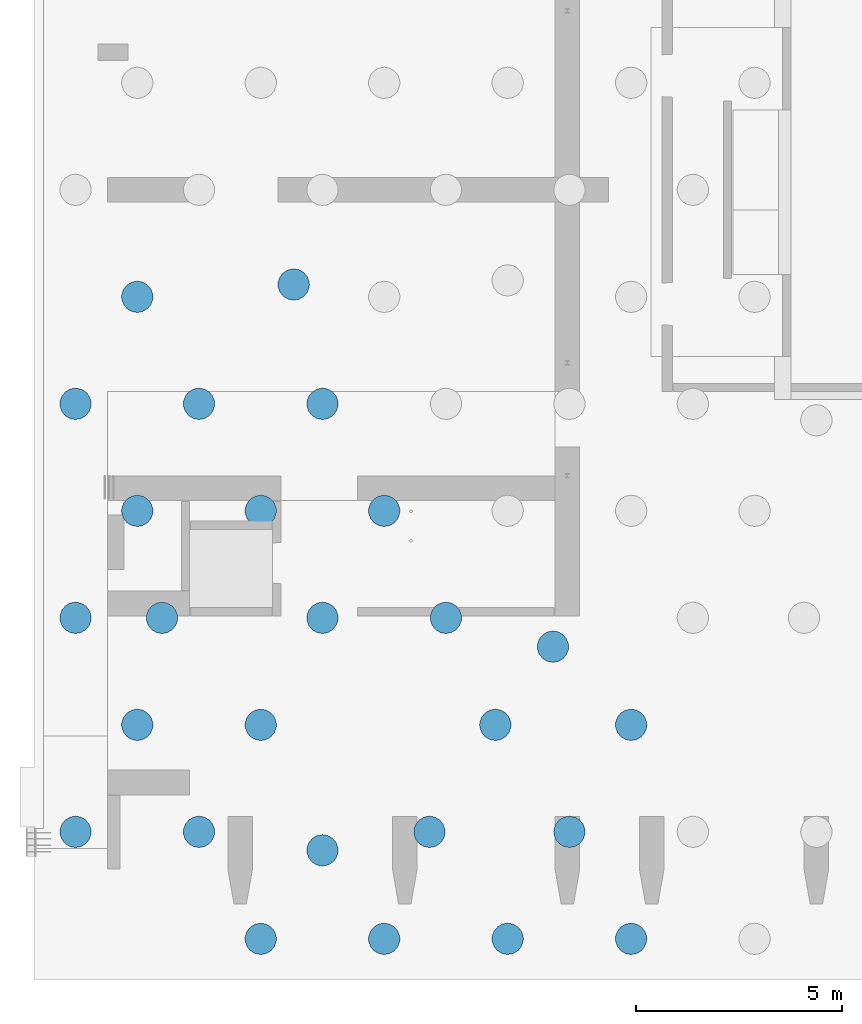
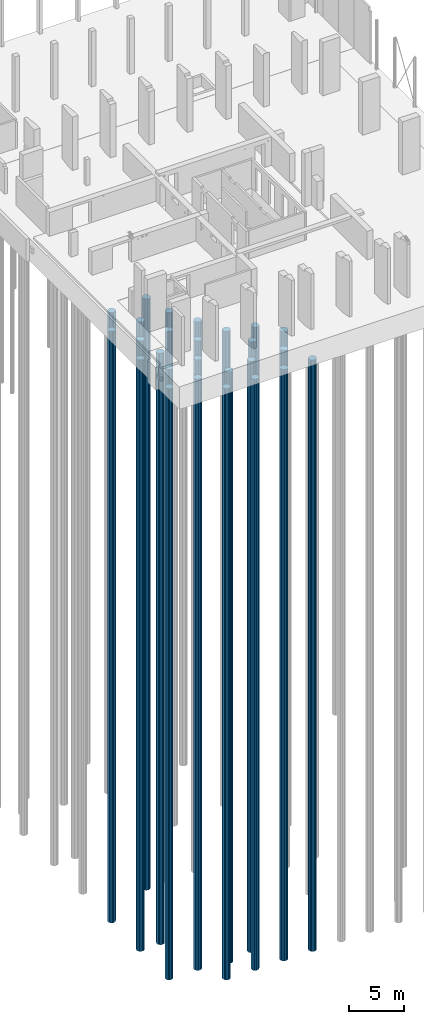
# One storey, part 1 of 26: 26 piles.
"""IFC2X3 building model written with IfcOpenShell, lengths in millimetres."""

from ifc_helpers import new_model, entity, si_unit, converted_unit, derived_unit, direction, frame, origin, place, context, subcontext, project, spatial, polyline, outline, extrude, material, element, save


model = new_model("IFC2X3")

# Units and contexts
model_context = context("Model", 3, precision=0.01, world=origin(), true_north=direction((6.12303176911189e-17, 1.0)))
body_context = subcontext(model_context, "Body", "Model", "MODEL_VIEW")
ifc_project = project(units=[si_unit("LENGTHUNIT", "METRE", prefix="MILLI"), si_unit("AREAUNIT", "SQUARE_METRE"), si_unit("VOLUMEUNIT", "CUBIC_METRE"), converted_unit("PLANEANGLEUNIT", "DEGREE", entity("IfcRatioMeasure", 0.0174532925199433), si_unit("PLANEANGLEUNIT", "RADIAN"), dimensions=[0, 0, 0, 0, 0, 0, 0]), si_unit("MASSUNIT", "GRAM", prefix="KILO"), derived_unit("MASSDENSITYUNIT", [(si_unit("MASSUNIT", "GRAM", prefix="KILO"), 1), (si_unit("LENGTHUNIT", "METRE"), -3)]), si_unit("TIMEUNIT", "SECOND"), si_unit("FREQUENCYUNIT", "HERTZ"), si_unit("THERMODYNAMICTEMPERATUREUNIT", "DEGREE_CELSIUS"), derived_unit("THERMALTRANSMITTANCEUNIT", [(si_unit("MASSUNIT", "GRAM", prefix="KILO"), 1), (si_unit("THERMODYNAMICTEMPERATUREUNIT", "KELVIN"), -1), (si_unit("TIMEUNIT", "SECOND"), -3)]), derived_unit("VOLUMETRICFLOWRATEUNIT", [(si_unit("LENGTHUNIT", "METRE"), 3), (si_unit("TIMEUNIT", "SECOND"), -1)]), si_unit("ELECTRICCURRENTUNIT", "AMPERE"), si_unit("ELECTRICVOLTAGEUNIT", "VOLT"), si_unit("POWERUNIT", "WATT"), si_unit("FORCEUNIT", "NEWTON", prefix="KILO"), si_unit("ILLUMINANCEUNIT", "LUX"), si_unit("LUMINOUSFLUXUNIT", "LUMEN"), si_unit("LUMINOUSINTENSITYUNIT", "CANDELA"), derived_unit("USERDEFINED", [(si_unit("MASSUNIT", "GRAM", prefix="KILO"), -1), (si_unit("LENGTHUNIT", "METRE"), -2), (si_unit("TIMEUNIT", "SECOND"), 3), (si_unit("LUMINOUSFLUXUNIT", "LUMEN"), 1)]), derived_unit("LINEARVELOCITYUNIT", [(si_unit("LENGTHUNIT", "METRE"), 1), (si_unit("TIMEUNIT", "SECOND"), -1)]), si_unit("PRESSUREUNIT", "PASCAL"), derived_unit("USERDEFINED", [(si_unit("LENGTHUNIT", "METRE"), -2), (si_unit("MASSUNIT", "GRAM", prefix="KILO"), 1), (si_unit("TIMEUNIT", "SECOND"), -2)])], contexts=[model_context])

# Site, building, storey
site_placement = place(None, origin())
site = spatial("IfcSite", under=ifc_project, at=site_placement, Name="Default", CompositionType="ELEMENT")
building_placement = place(site_placement, origin())
building = spatial("IfcBuilding", under=site, at=building_placement, Name="niet gebruiken", CompositionType="ELEMENT")
storey_placement = place(building_placement, origin())
storey = spatial("IfcBuildingStorey", under=building, at=storey_placement, Name="00 begane grond", CompositionType="ELEMENT", Elevation=0.0)

# Piles
ifc_material = material(Name="NLRS_f2_beton ihwg")
pile_1_placement = place(storey_placement, origin())
element("IfcPile", 1, at=pile_1_placement, inside=storey, material=ifc_material, Name="NLRS_17.12_SFO_TLB_funderingspaal grondverdringend_gen:Tubex_r762/950", ObjectType="NLRS_17.12_SFO_TLB_funderingspaal grondverdringend_gen:Tubex_r762/950", context=body_context, shape_type="SweptSolid", body=[
    extrude(outline(polyline([(-33.2063379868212, -379.55017997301), (33.2063379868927, -379.55017997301), (161.017557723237, -345.303266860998), (269.407683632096, -269.407683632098), (345.303266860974, -161.017557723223), (379.55017997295, -33.2063379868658), (368.017739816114, 98.6100561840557), (312.096928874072, 218.532622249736), (218.532622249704, 312.096928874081), (98.6100561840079, 368.017739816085), (33.2063379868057, 379.550179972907), (-33.2063379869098, 379.55017997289), (-161.017557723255, 345.303266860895), (-269.407683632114, 269.407683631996), (-345.303266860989, 161.01755772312), (-379.550179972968, 33.206337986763), (-368.017739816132, -98.6100561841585), (-312.09692887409, -218.532622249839), (-218.532622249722, -312.096928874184), (-98.6100561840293, -368.017739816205), (-33.2063379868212, -379.55017997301)])), frame((125250.0, 14900.0, -68100.0), z_axis=(0.0, 0.0, 1.0), x_axis=(0.0871557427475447, -0.996194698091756, 0.0)), (0.0, 0.0, 1.0), 65380.0),
])
pile_2_placement = place(storey_placement, origin())
element("IfcPile", 2, at=pile_2_placement, inside=storey, material=ifc_material, Name="NLRS_17.12_SFO_TLB_funderingspaal grondverdringend_gen:Tubex_r762/950", ObjectType="NLRS_17.12_SFO_TLB_funderingspaal grondverdringend_gen:Tubex_r762/950", context=body_context, shape_type="SweptSolid", body=[
    extrude(outline(polyline([(-33.2063379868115, -379.550179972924), (33.2063379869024, -379.550179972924), (161.017557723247, -345.303266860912), (269.407683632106, -269.407683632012), (345.303266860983, -161.017557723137), (379.55017997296, -33.2063379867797), (368.017739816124, 98.6100561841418), (312.096928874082, 218.532622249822), (218.532622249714, 312.096928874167), (98.6100561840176, 368.017739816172), (33.2063379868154, 379.550179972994), (-33.2063379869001, 379.550179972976), (-161.017557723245, 345.303266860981), (-269.407683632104, 269.407683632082), (-345.30326686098, 161.017557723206), (-379.550179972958, 33.2063379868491), (-368.017739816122, -98.6100561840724), (-312.09692887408, -218.532622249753), (-218.532622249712, -312.096928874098), (-98.6100561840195, -368.017739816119), (-33.2063379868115, -379.550179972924)])), frame((129050.0, 15200.0, -68100.0), z_axis=(0.0, 0.0, 1.0), x_axis=(0.0871557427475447, -0.996194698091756, 0.0)), (0.0, 0.0, 1.0), 65380.0),
])
pile_3_placement = place(storey_placement, origin())
element("IfcPile", 3, at=pile_3_placement, inside=storey, material=ifc_material, Name="NLRS_17.12_SFO_TLB_funderingspaal grondverdringend_gen:Tubex_r762/950", ObjectType="NLRS_17.12_SFO_TLB_funderingspaal grondverdringend_gen:Tubex_r762/950", context=body_context, shape_type="SweptSolid", body=[
    extrude(outline(polyline([(-33.2063379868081, -379.550179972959), (33.2063379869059, -379.550179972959), (161.01755772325, -345.303266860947), (269.407683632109, -269.407683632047), (345.303266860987, -161.017557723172), (379.550179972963, -33.2063379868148), (368.017739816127, 98.6100561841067), (312.096928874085, 218.532622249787), (218.532622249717, 312.096928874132), (98.610056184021, 368.017739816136), (33.2063379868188, 379.550179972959), (-33.2063379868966, 379.550179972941), (-161.017557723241, 345.303266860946), (-269.4076836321, 269.407683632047), (-345.303266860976, 161.017557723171), (-379.550179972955, 33.206337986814), (-368.017739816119, -98.6100561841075), (-312.096928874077, -218.532622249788), (-218.532622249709, -312.096928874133), (-98.6100561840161, -368.017739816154), (-33.2063379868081, -379.550179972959)])), frame((129750.0, 12300.0, -68100.0), z_axis=(0.0, 0.0, 1.0), x_axis=(0.0871557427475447, -0.996194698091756, 0.0)), (0.0, 0.0, 1.0), 65380.0),
])
pile_4_placement = place(storey_placement, origin())
element("IfcPile", 4, at=pile_4_placement, inside=storey, material=ifc_material, Name="NLRS_17.12_SFO_TLB_funderingspaal grondverdringend_gen:Tubex_r762/950", ObjectType="NLRS_17.12_SFO_TLB_funderingspaal grondverdringend_gen:Tubex_r762/950", context=body_context, shape_type="SweptSolid", body=[
    extrude(outline(polyline([(-33.2063379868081, -379.550179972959), (33.2063379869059, -379.550179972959), (161.01755772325, -345.303266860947), (269.407683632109, -269.407683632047), (345.303266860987, -161.017557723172), (379.550179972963, -33.2063379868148), (368.017739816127, 98.6100561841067), (312.096928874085, 218.532622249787), (218.532622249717, 312.096928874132), (98.610056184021, 368.017739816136), (33.2063379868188, 379.550179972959), (-33.2063379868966, 379.550179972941), (-161.017557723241, 345.303266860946), (-269.4076836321, 269.407683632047), (-345.303266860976, 161.017557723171), (-379.550179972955, 33.206337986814), (-368.017739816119, -98.6100561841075), (-312.096928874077, -218.532622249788), (-218.532622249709, -312.096928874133), (-98.6100561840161, -368.017739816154), (-33.2063379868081, -379.550179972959)])), frame((126750.0, 12300.0, -68100.0), z_axis=(0.0, 0.0, 1.0), x_axis=(0.0871557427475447, -0.996194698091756, 0.0)), (0.0, 0.0, 1.0), 65380.0),
])
pile_5_placement = place(storey_placement, origin())
element("IfcPile", 5, at=pile_5_placement, inside=storey, material=ifc_material, Name="NLRS_17.12_SFO_TLB_funderingspaal grondverdringend_gen:Tubex_r762/950", ObjectType="NLRS_17.12_SFO_TLB_funderingspaal grondverdringend_gen:Tubex_r762/950", context=body_context, shape_type="SweptSolid", body=[
    extrude(outline(polyline([(-33.2063379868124, -379.550179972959), (33.2063379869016, -379.550179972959), (161.017557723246, -345.303266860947), (269.407683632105, -269.407683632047), (345.303266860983, -161.017557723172), (379.550179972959, -33.2063379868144), (368.017739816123, 98.6100561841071), (312.096928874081, 218.532622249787), (218.532622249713, 312.096928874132), (98.6100561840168, 368.017739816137), (33.2063379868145, 379.550179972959), (-33.2063379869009, 379.550179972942), (-161.017557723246, 345.303266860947), (-269.407683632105, 269.407683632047), (-345.30326686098, 161.017557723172), (-379.550179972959, 33.2063379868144), (-368.017739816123, -98.6100561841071), (-312.096928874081, -218.532622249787), (-218.532622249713, -312.096928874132), (-98.6100561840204, -368.017739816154), (-33.2063379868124, -379.550179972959)])), frame((123750.0, 12300.0, -68100.0), z_axis=(0.0, 0.0, 1.0), x_axis=(0.0871557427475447, -0.996194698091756, 0.0)), (0.0, 0.0, 1.0), 65380.0),
])
pile_6_placement = place(storey_placement, origin())
element("IfcPile", 6, at=pile_6_placement, inside=storey, material=ifc_material, Name="NLRS_17.12_SFO_TLB_funderingspaal grondverdringend_gen:Tubex_r762/950", ObjectType="NLRS_17.12_SFO_TLB_funderingspaal grondverdringend_gen:Tubex_r762/950", context=body_context, shape_type="SweptSolid", body=[
    extrude(outline(polyline([(-33.2063379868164, -379.550179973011), (33.2063379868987, -379.550179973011), (161.017557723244, -345.303266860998), (269.407683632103, -269.407683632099), (345.303266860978, -161.017557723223), (379.550179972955, -33.2063379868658), (368.017739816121, 98.6100561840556), (312.096928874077, 218.532622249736), (218.532622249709, 312.096928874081), (98.6100561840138, 368.017739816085), (33.2063379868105, 379.550179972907), (-33.2063379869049, 379.55017997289), (-161.01755772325, 345.303266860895), (-269.407683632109, 269.407683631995), (-345.303266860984, 161.017557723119), (-379.550179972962, 33.2063379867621), (-368.017739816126, -98.6100561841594), (-312.096928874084, -218.53262224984), (-218.532622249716, -312.096928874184), (-98.6100561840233, -368.017739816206), (-33.2063379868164, -379.550179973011)])), frame((125250.0, 9700.0, -68100.0), z_axis=(0.0, 0.0, 1.0), x_axis=(0.0871557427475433, -0.996194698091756, 0.0)), (0.0, 0.0, 1.0), 65380.0),
])
pile_7_placement = place(storey_placement, origin())
element("IfcPile", 7, at=pile_7_placement, inside=storey, material=ifc_material, Name="NLRS_17.12_SFO_TLB_funderingspaal grondverdringend_gen:Tubex_r762/950", ObjectType="NLRS_17.12_SFO_TLB_funderingspaal grondverdringend_gen:Tubex_r762/950", context=body_context, shape_type="SweptSolid", body=[
    extrude(outline(polyline([(-33.2063379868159, -379.550179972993), (33.2063379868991, -379.550179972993), (161.017557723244, -345.303266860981), (269.407683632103, -269.407683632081), (345.303266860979, -161.017557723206), (379.550179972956, -33.2063379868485), (368.017739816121, 98.6100561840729), (312.096928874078, 218.532622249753), (218.53262224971, 312.096928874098), (98.6100561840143, 368.017739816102), (33.206337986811, 379.550179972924), (-33.2063379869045, 379.550179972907), (-161.017557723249, 345.303266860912), (-269.407683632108, 269.407683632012), (-345.303266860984, 161.017557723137), (-379.550179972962, 33.2063379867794), (-368.017739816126, -98.6100561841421), (-312.096928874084, -218.532622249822), (-218.532622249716, -312.096928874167), (-98.6100561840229, -368.017739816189), (-33.2063379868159, -379.550179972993)])), frame((131250.0, 9700.0, -68100.0), z_axis=(0.0, 0.0, 1.0), x_axis=(0.0871557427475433, -0.996194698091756, 0.0)), (0.0, 0.0, 1.0), 65380.0),
])
pile_8_placement = place(storey_placement, origin())
element("IfcPile", 8, at=pile_8_placement, inside=storey, material=ifc_material, Name="NLRS_17.12_SFO_TLB_funderingspaal grondverdringend_gen:Tubex_r762/950", ObjectType="NLRS_17.12_SFO_TLB_funderingspaal grondverdringend_gen:Tubex_r762/950", context=body_context, shape_type="SweptSolid", body=[
    extrude(outline(polyline([(-33.2063379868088, -379.550179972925), (33.2063379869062, -379.550179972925), (161.017557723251, -345.303266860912), (269.40768363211, -269.407683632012), (345.303266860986, -161.017557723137), (379.550179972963, -33.2063379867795), (368.017739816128, 98.6100561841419), (312.096928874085, 218.532622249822), (218.532622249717, 312.096928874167), (98.6100561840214, 368.017739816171), (33.2063379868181, 379.550179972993), (-33.2063379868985, 379.550179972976), (-161.017557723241, 345.303266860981), (-269.4076836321, 269.407683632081), (-345.303266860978, 161.017557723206), (-379.550179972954, 33.2063379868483), (-368.01773981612, -98.610056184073), (-312.096928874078, -218.532622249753), (-218.53262224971, -312.096928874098), (-98.6100561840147, -368.01773981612), (-33.2063379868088, -379.550179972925)])), frame((128250.0, 9700.0, -68100.0), z_axis=(0.0, 0.0, 1.0), x_axis=(0.0871557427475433, -0.996194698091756, 0.0)), (0.0, 0.0, 1.0), 65380.0),
])
pile_9_placement = place(storey_placement, origin())
element("IfcPile", 9, at=pile_9_placement, inside=storey, material=ifc_material, Name="NLRS_17.12_SFO_TLB_funderingspaal grondverdringend_gen:Tubex_r762/950", ObjectType="NLRS_17.12_SFO_TLB_funderingspaal grondverdringend_gen:Tubex_r762/950", context=body_context, shape_type="SweptSolid", body=[
    extrude(outline(polyline([(-33.2063379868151, -379.550179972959), (33.2063379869, -379.550179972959), (161.017557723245, -345.303266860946), (269.407683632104, -269.407683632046), (345.30326686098, -161.017557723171), (379.550179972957, -33.2063379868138), (368.017739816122, 98.6100561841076), (312.096928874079, 218.532622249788), (218.532622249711, 312.096928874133), (98.6100561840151, 368.017739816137), (33.2063379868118, 379.550179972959), (-33.2063379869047, 379.550179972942), (-161.017557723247, 345.303266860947), (-269.407683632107, 269.407683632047), (-345.303266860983, 161.017557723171), (-379.55017997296, 33.206337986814), (-368.017739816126, -98.6100561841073), (-312.096928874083, -218.532622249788), (-218.532622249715, -312.096928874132), (-98.610056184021, -368.017739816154), (-33.2063379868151, -379.550179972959)])), frame((135350.0, 6400.0, -68100.0), z_axis=(0.0, 0.0, 1.0), x_axis=(0.0871557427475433, -0.996194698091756, 0.0)), (0.0, 0.0, 1.0), 65380.0),
])
pile_10_placement = place(storey_placement, origin())
element("IfcPile", 10, at=pile_10_placement, inside=storey, material=ifc_material, Name="NLRS_17.12_SFO_TLB_funderingspaal grondverdringend_gen:Tubex_r762/950", ObjectType="NLRS_17.12_SFO_TLB_funderingspaal grondverdringend_gen:Tubex_r762/950", context=body_context, shape_type="SweptSolid", body=[
    extrude(outline(polyline([(-33.2063379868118, -379.550179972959), (33.2063379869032, -379.550179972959), (161.017557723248, -345.303266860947), (269.407683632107, -269.407683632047), (345.303266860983, -161.017557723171), (379.55017997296, -33.206337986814), (368.017739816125, 98.6100561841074), (312.096928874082, 218.532622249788), (218.532622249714, 312.096928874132), (98.6100561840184, 368.017739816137), (33.2063379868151, 379.550179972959), (-33.2063379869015, 379.550179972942), (-161.017557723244, 345.303266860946), (-269.407683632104, 269.407683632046), (-345.30326686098, 161.017557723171), (-379.550179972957, 33.2063379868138), (-368.017739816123, -98.6100561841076), (-312.09692887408, -218.532622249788), (-218.532622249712, -312.096928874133), (-98.6100561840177, -368.017739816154), (-33.2063379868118, -379.550179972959)])), frame((132750.0, 7100.0, -68100.0), z_axis=(0.0, 0.0, 1.0), x_axis=(0.0871557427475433, -0.996194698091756, 0.0)), (0.0, 0.0, 1.0), 65380.0),
])
pile_11_placement = place(storey_placement, origin())
element("IfcPile", 11, at=pile_11_placement, inside=storey, material=ifc_material, Name="NLRS_17.12_SFO_TLB_funderingspaal grondverdringend_gen:Tubex_r762/950", ObjectType="NLRS_17.12_SFO_TLB_funderingspaal grondverdringend_gen:Tubex_r762/950", context=body_context, shape_type="SweptSolid", body=[
    extrude(outline(polyline([(-33.2063379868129, -379.550179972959), (33.2063379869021, -379.550179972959), (161.017557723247, -345.303266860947), (269.407683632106, -269.407683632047), (345.303266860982, -161.017557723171), (379.550179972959, -33.2063379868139), (368.017739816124, 98.6100561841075), (312.096928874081, 218.532622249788), (218.532622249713, 312.096928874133), (98.6100561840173, 368.017739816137), (33.206337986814, 379.550179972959), (-33.2063379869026, 379.550179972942), (-161.017557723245, 345.303266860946), (-269.407683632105, 269.407683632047), (-345.303266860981, 161.017557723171), (-379.550179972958, 33.2063379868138), (-368.017739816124, -98.6100561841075), (-312.096928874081, -218.532622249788), (-218.532622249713, -312.096928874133), (-98.6100561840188, -368.017739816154), (-33.2063379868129, -379.550179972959)])), frame((129750.0, 7100.0, -68100.0), z_axis=(0.0, 0.0, 1.0), x_axis=(0.0871557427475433, -0.996194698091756, 0.0)), (0.0, 0.0, 1.0), 65380.0),
])
pile_12_placement = place(storey_placement, origin())
element("IfcPile", 12, at=pile_12_placement, inside=storey, material=ifc_material, Name="NLRS_17.12_SFO_TLB_funderingspaal grondverdringend_gen:Tubex_r762/950", ObjectType="NLRS_17.12_SFO_TLB_funderingspaal grondverdringend_gen:Tubex_r762/950", context=body_context, shape_type="SweptSolid", body=[
    extrude(outline(polyline([(-33.2063379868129, -379.550179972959), (33.2063379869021, -379.550179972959), (161.017557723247, -345.303266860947), (269.407683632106, -269.407683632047), (345.303266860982, -161.017557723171), (379.550179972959, -33.2063379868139), (368.017739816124, 98.6100561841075), (312.096928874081, 218.532622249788), (218.532622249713, 312.096928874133), (98.6100561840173, 368.017739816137), (33.206337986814, 379.550179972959), (-33.2063379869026, 379.550179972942), (-161.017557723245, 345.303266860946), (-269.407683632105, 269.407683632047), (-345.303266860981, 161.017557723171), (-379.550179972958, 33.2063379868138), (-368.017739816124, -98.6100561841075), (-312.096928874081, -218.532622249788), (-218.532622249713, -312.096928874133), (-98.6100561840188, -368.017739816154), (-33.2063379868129, -379.550179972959)])), frame((125850.0, 7100.0, -68100.0), z_axis=(0.0, 0.0, 1.0), x_axis=(0.0871557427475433, -0.996194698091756, 0.0)), (0.0, 0.0, 1.0), 65380.0),
])
pile_13_placement = place(storey_placement, origin())
element("IfcPile", 13, at=pile_13_placement, inside=storey, material=ifc_material, Name="NLRS_17.12_SFO_TLB_funderingspaal grondverdringend_gen:Tubex_r762/950", ObjectType="NLRS_17.12_SFO_TLB_funderingspaal grondverdringend_gen:Tubex_r762/950", context=body_context, shape_type="SweptSolid", body=[
    extrude(outline(polyline([(-33.2063379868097, -379.550179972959), (33.2063379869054, -379.550179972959), (161.017557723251, -345.303266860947), (269.407683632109, -269.407683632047), (345.303266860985, -161.017557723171), (379.550179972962, -33.2063379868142), (368.017739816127, 98.6100561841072), (312.096928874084, 218.532622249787), (218.532622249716, 312.096928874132), (98.6100561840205, 368.017739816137), (33.2063379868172, 379.550179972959), (-33.2063379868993, 379.550179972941), (-161.017557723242, 345.303266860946), (-269.407683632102, 269.407683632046), (-345.303266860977, 161.017557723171), (-379.550179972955, 33.2063379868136), (-368.017739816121, -98.6100561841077), (-312.096928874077, -218.532622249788), (-218.532622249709, -312.096928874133), (-98.6100561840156, -368.017739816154), (-33.2063379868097, -379.550179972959)])), frame((123750.0, 7100.0, -68100.0), z_axis=(0.0, 0.0, 1.0), x_axis=(0.0871557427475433, -0.996194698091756, 0.0)), (0.0, 0.0, 1.0), 65380.0),
])
pile_14_placement = place(storey_placement, origin())
element("IfcPile", 14, at=pile_14_placement, inside=storey, material=ifc_material, Name="NLRS_17.12_SFO_TLB_funderingspaal grondverdringend_gen:Tubex_r762/950", ObjectType="NLRS_17.12_SFO_TLB_funderingspaal grondverdringend_gen:Tubex_r762/950", context=body_context, shape_type="SweptSolid", body=[
    extrude(outline(polyline([(-33.2063379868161, -379.550179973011), (33.2063379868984, -379.550179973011), (161.017557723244, -345.303266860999), (269.407683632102, -269.407683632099), (345.303266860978, -161.017557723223), (379.550179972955, -33.2063379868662), (368.01773981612, 98.6100561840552), (312.096928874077, 218.532622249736), (218.532622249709, 312.096928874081), (98.6100561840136, 368.017739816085), (33.2063379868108, 379.550179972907), (-33.2063379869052, 379.55017997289), (-161.017557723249, 345.303266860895), (-269.407683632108, 269.407683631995), (-345.303266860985, 161.01755772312), (-379.550179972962, 33.2063379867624), (-368.017739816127, -98.610056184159), (-312.096928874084, -218.532622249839), (-218.532622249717, -312.096928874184), (-98.6100561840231, -368.017739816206), (-33.2063379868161, -379.550179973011)])), frame((125250.0, 4500.0, -68100.0), z_axis=(0.0, 0.0, 1.0), x_axis=(0.087155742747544, -0.996194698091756, 0.0)), (0.0, 0.0, 1.0), 65380.0),
])
pile_15_placement = place(storey_placement, origin())
element("IfcPile", 15, at=pile_15_placement, inside=storey, material=ifc_material, Name="NLRS_17.12_SFO_TLB_funderingspaal grondverdringend_gen:Tubex_r762/950", ObjectType="NLRS_17.12_SFO_TLB_funderingspaal grondverdringend_gen:Tubex_r762/950", context=body_context, shape_type="SweptSolid", body=[
    extrude(outline(polyline([(-33.2063379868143, -379.550179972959), (33.2063379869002, -379.550179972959), (161.017557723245, -345.303266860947), (269.407683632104, -269.407683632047), (345.30326686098, -161.017557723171), (379.550179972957, -33.2063379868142), (368.017739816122, 98.6100561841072), (312.096928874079, 218.532622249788), (218.532622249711, 312.096928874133), (98.6100561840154, 368.017739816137), (33.2063379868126, 379.550179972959), (-33.2063379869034, 379.550179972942), (-161.017557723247, 345.303266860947), (-269.407683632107, 269.407683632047), (-345.303266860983, 161.017557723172), (-379.55017997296, 33.2063379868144), (-368.017739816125, -98.610056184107), (-312.096928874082, -218.532622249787), (-218.532622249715, -312.096928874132), (-98.6100561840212, -368.017739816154), (-33.2063379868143, -379.550179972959)])), frame((128250.0, 4500.0, -68100.0), z_axis=(0.0, 0.0, 1.0), x_axis=(0.087155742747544, -0.996194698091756, 0.0)), (0.0, 0.0, 1.0), 65380.0),
])
pile_16_placement = place(storey_placement, origin())
element("IfcPile", 16, at=pile_16_placement, inside=storey, material=ifc_material, Name="NLRS_17.12_SFO_TLB_funderingspaal grondverdringend_gen:Tubex_r762/950", ObjectType="NLRS_17.12_SFO_TLB_funderingspaal grondverdringend_gen:Tubex_r762/950", context=body_context, shape_type="SweptSolid", body=[
    extrude(outline(polyline([(-33.2063379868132, -379.550179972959), (33.2063379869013, -379.550179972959), (161.017557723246, -345.303266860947), (269.407683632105, -269.407683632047), (345.303266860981, -161.017557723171), (379.550179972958, -33.2063379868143), (368.017739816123, 98.6100561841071), (312.09692887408, 218.532622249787), (218.532622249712, 312.096928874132), (98.6100561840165, 368.017739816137), (33.2063379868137, 379.550179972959), (-33.2063379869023, 379.550179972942), (-161.017557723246, 345.303266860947), (-269.407683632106, 269.407683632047), (-345.303266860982, 161.017557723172), (-379.550179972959, 33.2063379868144), (-368.017739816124, -98.6100561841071), (-312.096928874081, -218.532622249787), (-218.532622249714, -312.096928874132), (-98.6100561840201, -368.017739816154), (-33.2063379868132, -379.550179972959)])), frame((133950.0, 4500.0, -68100.0), z_axis=(0.0, 0.0, 1.0), x_axis=(0.087155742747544, -0.996194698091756, 0.0)), (0.0, 0.0, 1.0), 65380.0),
])
pile_17_placement = place(storey_placement, origin())
element("IfcPile", 17, at=pile_17_placement, inside=storey, material=ifc_material, Name="NLRS_17.12_SFO_TLB_funderingspaal grondverdringend_gen:Tubex_r762/950", ObjectType="NLRS_17.12_SFO_TLB_funderingspaal grondverdringend_gen:Tubex_r762/950", context=body_context, shape_type="SweptSolid", body=[
    extrude(outline(polyline([(-33.2063379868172, -379.550179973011), (33.2063379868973, -379.550179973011), (161.017557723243, -345.303266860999), (269.407683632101, -269.407683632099), (345.303266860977, -161.017557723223), (379.550179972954, -33.2063379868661), (368.017739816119, 98.6100561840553), (312.096928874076, 218.532622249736), (218.532622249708, 312.096928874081), (98.6100561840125, 368.017739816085), (33.2063379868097, 379.550179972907), (-33.2063379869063, 379.55017997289), (-161.01755772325, 345.303266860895), (-269.40768363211, 269.407683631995), (-345.303266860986, 161.01755772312), (-379.550179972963, 33.2063379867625), (-368.017739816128, -98.6100561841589), (-312.096928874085, -218.532622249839), (-218.532622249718, -312.096928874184), (-98.6100561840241, -368.017739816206), (-33.2063379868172, -379.550179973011)])), frame((137250.0, 4500.0, -68100.0), z_axis=(0.0, 0.0, 1.0), x_axis=(0.087155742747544, -0.996194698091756, 0.0)), (0.0, 0.0, 1.0), 65380.0),
])
pile_18_placement = place(storey_placement, origin())
element("IfcPile", 18, at=pile_18_placement, inside=storey, material=ifc_material, Name="NLRS_17.12_SFO_TLB_funderingspaal grondverdringend_gen:Tubex_r762/950", ObjectType="NLRS_17.12_SFO_TLB_funderingspaal grondverdringend_gen:Tubex_r762/950", context=body_context, shape_type="SweptSolid", body=[
    extrude(outline(polyline([(-33.2063379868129, -379.550179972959), (33.2063379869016, -379.550179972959), (161.017557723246, -345.303266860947), (269.407683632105, -269.407683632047), (345.303266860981, -161.017557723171), (379.550179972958, -33.2063379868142), (368.017739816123, 98.6100561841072), (312.09692887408, 218.532622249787), (218.532622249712, 312.096928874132), (98.610056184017, 368.017739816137), (33.206337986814, 379.550179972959), (-33.206337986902, 379.550179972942), (-161.017557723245, 345.303266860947), (-269.407683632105, 269.407683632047), (-345.303266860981, 161.017557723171), (-379.550179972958, 33.2063379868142), (-368.017739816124, -98.6100561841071), (-312.096928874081, -218.532622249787), (-218.532622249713, -312.096928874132), (-98.6100561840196, -368.017739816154), (-33.2063379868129, -379.550179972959)])), frame((129750.0, 1450.0, -68100.0), z_axis=(0.0, 0.0, 1.0), x_axis=(0.087155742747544, -0.996194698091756, 0.0)), (0.0, 0.0, 1.0), 65380.0),
])
pile_19_placement = place(storey_placement, origin())
element("IfcPile", 19, at=pile_19_placement, inside=storey, material=ifc_material, Name="NLRS_17.12_SFO_TLB_funderingspaal grondverdringend_gen:Tubex_r762/950", ObjectType="NLRS_17.12_SFO_TLB_funderingspaal grondverdringend_gen:Tubex_r762/950", context=body_context, shape_type="SweptSolid", body=[
    extrude(outline(polyline([(-33.2063379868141, -379.550179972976), (33.2063379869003, -379.550179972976), (161.017557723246, -345.303266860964), (269.407683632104, -269.407683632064), (345.30326686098, -161.017557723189), (379.550179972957, -33.2063379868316), (368.017739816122, 98.6100561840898), (312.096928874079, 218.53262224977), (218.532622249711, 312.096928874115), (98.6100561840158, 368.017739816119), (33.2063379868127, 379.550179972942), (-33.2063379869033, 379.550179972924), (-161.017557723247, 345.303266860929), (-269.407683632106, 269.40768363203), (-345.303266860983, 161.017557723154), (-379.55017997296, 33.206337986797), (-368.017739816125, -98.6100561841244), (-312.096928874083, -218.532622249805), (-218.532622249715, -312.09692887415), (-98.6100561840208, -368.017739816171), (-33.2063379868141, -379.550179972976)])), frame((135750.0, 1900.0, -68100.0), z_axis=(0.0, 0.0, 1.0), x_axis=(0.087155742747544, -0.996194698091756, 0.0)), (0.0, 0.0, 1.0), 65380.0),
])
pile_20_placement = place(storey_placement, origin())
element("IfcPile", 20, at=pile_20_placement, inside=storey, material=ifc_material, Name="NLRS_17.12_SFO_TLB_funderingspaal grondverdringend_gen:Tubex_r762/950", ObjectType="NLRS_17.12_SFO_TLB_funderingspaal grondverdringend_gen:Tubex_r762/950", context=body_context, shape_type="SweptSolid", body=[
    extrude(outline(polyline([(-33.2063379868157, -379.550179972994), (33.2063379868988, -379.550179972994), (161.017557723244, -345.303266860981), (269.407683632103, -269.407683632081), (345.303266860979, -161.017557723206), (379.550179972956, -33.2063379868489), (368.017739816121, 98.6100561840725), (312.096928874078, 218.532622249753), (218.532622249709, 312.096928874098), (98.6100561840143, 368.017739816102), (33.2063379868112, 379.550179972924), (-33.2063379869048, 379.550179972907), (-161.017557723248, 345.303266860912), (-269.407683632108, 269.407683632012), (-345.303266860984, 161.017557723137), (-379.550179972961, 33.2063379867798), (-368.017739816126, -98.6100561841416), (-312.096928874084, -218.532622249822), (-218.532622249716, -312.096928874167), (-98.6100561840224, -368.017739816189), (-33.2063379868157, -379.550179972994)])), frame((132350.0, 1900.0, -68100.0), z_axis=(0.0, 0.0, 1.0), x_axis=(0.087155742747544, -0.996194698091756, 0.0)), (0.0, 0.0, 1.0), 65380.0),
])
pile_21_placement = place(storey_placement, origin())
element("IfcPile", 21, at=pile_21_placement, inside=storey, material=ifc_material, Name="NLRS_17.12_SFO_TLB_funderingspaal grondverdringend_gen:Tubex_r762/950", ObjectType="NLRS_17.12_SFO_TLB_funderingspaal grondverdringend_gen:Tubex_r762/950", context=body_context, shape_type="SweptSolid", body=[
    extrude(outline(polyline([(-33.2063379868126, -379.550179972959), (33.2063379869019, -379.550179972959), (161.017557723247, -345.303266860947), (269.407683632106, -269.407683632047), (345.303266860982, -161.017557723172), (379.550179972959, -33.2063379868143), (368.017739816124, 98.6100561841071), (312.096928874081, 218.532622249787), (218.532622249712, 312.096928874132), (98.6100561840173, 368.017739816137), (33.2063379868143, 379.550179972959), (-33.2063379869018, 379.550179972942), (-161.017557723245, 345.303266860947), (-269.407683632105, 269.407683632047), (-345.303266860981, 161.017557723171), (-379.550179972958, 33.2063379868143), (-368.017739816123, -98.6100561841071), (-312.096928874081, -218.532622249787), (-218.532622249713, -312.096928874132), (-98.6100561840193, -368.017739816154), (-33.2063379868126, -379.550179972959)])), frame((126750.0, 1900.0, -68100.0), z_axis=(0.0, 0.0, 1.0), x_axis=(0.087155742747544, -0.996194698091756, 0.0)), (0.0, 0.0, 1.0), 65380.0),
])
pile_22_placement = place(storey_placement, origin())
element("IfcPile", 22, at=pile_22_placement, inside=storey, material=ifc_material, Name="NLRS_17.12_SFO_TLB_funderingspaal grondverdringend_gen:Tubex_r762/950", ObjectType="NLRS_17.12_SFO_TLB_funderingspaal grondverdringend_gen:Tubex_r762/950", context=body_context, shape_type="SweptSolid", body=[
    extrude(outline(polyline([(-33.2063379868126, -379.550179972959), (33.2063379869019, -379.550179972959), (161.017557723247, -345.303266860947), (269.407683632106, -269.407683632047), (345.303266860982, -161.017557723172), (379.550179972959, -33.2063379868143), (368.017739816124, 98.6100561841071), (312.096928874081, 218.532622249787), (218.532622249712, 312.096928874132), (98.6100561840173, 368.017739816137), (33.2063379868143, 379.550179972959), (-33.2063379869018, 379.550179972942), (-161.017557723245, 345.303266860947), (-269.407683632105, 269.407683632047), (-345.303266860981, 161.017557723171), (-379.550179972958, 33.2063379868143), (-368.017739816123, -98.6100561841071), (-312.096928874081, -218.532622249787), (-218.532622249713, -312.096928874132), (-98.6100561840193, -368.017739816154), (-33.2063379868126, -379.550179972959)])), frame((123750.0, 1900.0, -68100.0), z_axis=(0.0, 0.0, 1.0), x_axis=(0.087155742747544, -0.996194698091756, 0.0)), (0.0, 0.0, 1.0), 65380.0),
])
pile_23_placement = place(storey_placement, origin())
element("IfcPile", 23, at=pile_23_placement, inside=storey, material=ifc_material, Name="NLRS_17.12_SFO_TLB_funderingspaal grondverdringend_gen:Tubex_r762/950", ObjectType="NLRS_17.12_SFO_TLB_funderingspaal grondverdringend_gen:Tubex_r762/950", context=body_context, shape_type="SweptSolid", body=[
    extrude(outline(polyline([(-33.2063379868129, -379.550179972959), (33.2063379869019, -379.550179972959), (161.017557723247, -345.303266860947), (269.407683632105, -269.407683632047), (345.303266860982, -161.017557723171), (379.550179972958, -33.206337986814), (368.017739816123, 98.6100561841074), (312.09692887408, 218.532622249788), (218.532622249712, 312.096928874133), (98.6100561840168, 368.017739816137), (33.206337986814, 379.550179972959), (-33.2063379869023, 379.550179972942), (-161.017557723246, 345.303266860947), (-269.407683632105, 269.407683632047), (-345.303266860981, 161.017557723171), (-379.550179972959, 33.206337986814), (-368.017739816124, -98.6100561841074), (-312.096928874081, -218.532622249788), (-218.532622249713, -312.096928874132), (-98.6100561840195, -368.017739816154), (-33.2063379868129, -379.550179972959)])), frame((128250.0, -700.0, -68100.0), z_axis=(0.0, 0.0, 1.0), x_axis=(0.0871557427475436, -0.996194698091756, 0.0)), (0.0, 0.0, 1.0), 65380.0),
])
pile_24_placement = place(storey_placement, origin())
element("IfcPile", 24, at=pile_24_placement, inside=storey, material=ifc_material, Name="NLRS_17.12_SFO_TLB_funderingspaal grondverdringend_gen:Tubex_r762/950", ObjectType="NLRS_17.12_SFO_TLB_funderingspaal grondverdringend_gen:Tubex_r762/950", context=body_context, shape_type="SweptSolid", body=[
    extrude(outline(polyline([(-33.2063379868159, -379.550179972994), (33.2063379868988, -379.550179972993), (161.017557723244, -345.303266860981), (269.407683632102, -269.407683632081), (345.303266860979, -161.017557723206), (379.550179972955, -33.2063379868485), (368.01773981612, 98.6100561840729), (312.096928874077, 218.532622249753), (218.532622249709, 312.096928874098), (98.6100561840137, 368.017739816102), (33.206337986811, 379.550179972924), (-33.2063379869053, 379.550179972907), (-161.017557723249, 345.303266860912), (-269.407683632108, 269.407683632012), (-345.303266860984, 161.017557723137), (-379.550179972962, 33.2063379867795), (-368.017739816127, -98.6100561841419), (-312.096928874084, -218.532622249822), (-218.532622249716, -312.096928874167), (-98.6100561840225, -368.017739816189), (-33.2063379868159, -379.550179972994)])), frame((131250.0, -700.0, -68100.0), z_axis=(0.0, 0.0, 1.0), x_axis=(0.0871557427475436, -0.996194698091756, 0.0)), (0.0, 0.0, 1.0), 65380.0),
])
pile_25_placement = place(storey_placement, origin())
element("IfcPile", 25, at=pile_25_placement, inside=storey, material=ifc_material, Name="NLRS_17.12_SFO_TLB_funderingspaal grondverdringend_gen:Tubex_r762/950", ObjectType="NLRS_17.12_SFO_TLB_funderingspaal grondverdringend_gen:Tubex_r762/950", context=body_context, shape_type="SweptSolid", body=[
    extrude(outline(polyline([(-33.2063379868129, -379.550179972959), (33.2063379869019, -379.550179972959), (161.017557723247, -345.303266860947), (269.407683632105, -269.407683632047), (345.303266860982, -161.017557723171), (379.550179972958, -33.206337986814), (368.017739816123, 98.6100561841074), (312.09692887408, 218.532622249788), (218.532622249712, 312.096928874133), (98.6100561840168, 368.017739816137), (33.206337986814, 379.550179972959), (-33.2063379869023, 379.550179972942), (-161.017557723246, 345.303266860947), (-269.407683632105, 269.407683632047), (-345.303266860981, 161.017557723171), (-379.550179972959, 33.206337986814), (-368.017739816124, -98.6100561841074), (-312.096928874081, -218.532622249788), (-218.532622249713, -312.096928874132), (-98.6100561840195, -368.017739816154), (-33.2063379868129, -379.550179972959)])), frame((134250.0, -700.0, -68100.0), z_axis=(0.0, 0.0, 1.0), x_axis=(0.0871557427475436, -0.996194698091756, 0.0)), (0.0, 0.0, 1.0), 65380.0),
])
pile_26_placement = place(storey_placement, origin())
element("IfcPile", 26, at=pile_26_placement, inside=storey, material=ifc_material, Name="NLRS_17.12_SFO_TLB_funderingspaal grondverdringend_gen:Tubex_r762/950", ObjectType="NLRS_17.12_SFO_TLB_funderingspaal grondverdringend_gen:Tubex_r762/950", context=body_context, shape_type="SweptSolid", body=[
    extrude(outline(polyline([(-33.2063379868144, -379.550179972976), (33.2063379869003, -379.550179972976), (161.017557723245, -345.303266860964), (269.407683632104, -269.407683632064), (345.30326686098, -161.017557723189), (379.550179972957, -33.2063379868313), (368.017739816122, 98.6100561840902), (312.096928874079, 218.53262224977), (218.532622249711, 312.096928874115), (98.6100561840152, 368.01773981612), (33.2063379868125, 379.550179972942), (-33.2063379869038, 379.550179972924), (-161.017557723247, 345.303266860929), (-269.407683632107, 269.407683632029), (-345.303266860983, 161.017557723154), (-379.55017997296, 33.2063379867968), (-368.017739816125, -98.6100561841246), (-312.096928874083, -218.532622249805), (-218.532622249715, -312.09692887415), (-98.610056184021, -368.017739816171), (-33.2063379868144, -379.550179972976)])), frame((137250.0, -700.0, -68100.0), z_axis=(0.0, 0.0, 1.0), x_axis=(0.0871557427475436, -0.996194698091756, 0.0)), (0.0, 0.0, 1.0), 65380.0),
])

save(model, "model.ifc")
